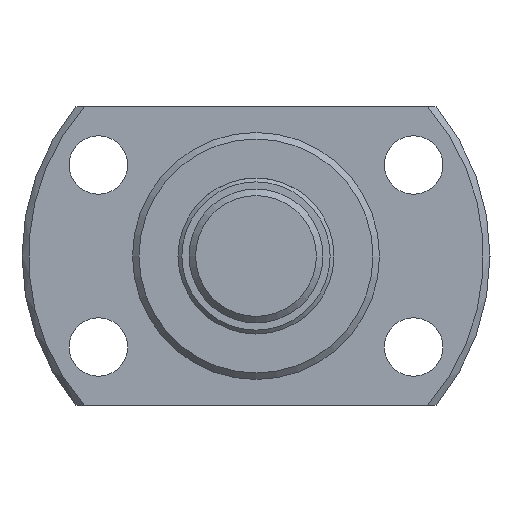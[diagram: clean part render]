
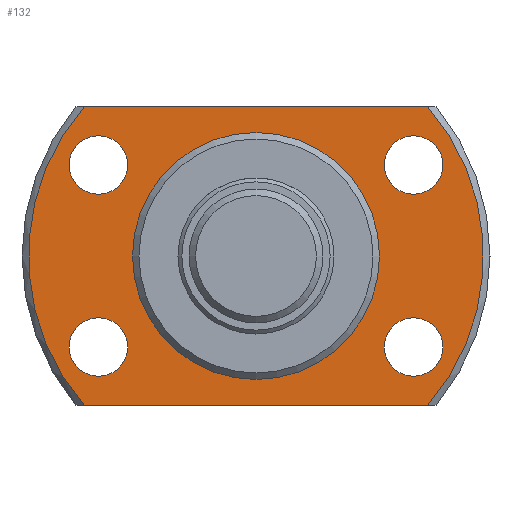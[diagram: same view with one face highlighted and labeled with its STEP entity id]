
A CAD part, left-side view. The second image highlights one B-rep face of the part: STEP entity #132.
In plain terms, the highlighted planar face has unit normal (-1, 0, 0).
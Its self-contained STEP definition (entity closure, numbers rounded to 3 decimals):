
#132 = ADVANCED_FACE( '', ( #266, #267, #268, #269, #270, #271 ), #272, .F. );
#266 = FACE_OUTER_BOUND( '', #422, .T. );
#267 = FACE_BOUND( '', #423, .T. );
#268 = FACE_BOUND( '', #424, .T. );
#269 = FACE_BOUND( '', #425, .T. );
#270 = FACE_BOUND( '', #426, .T. );
#271 = FACE_BOUND( '', #427, .T. );
#272 = PLANE( '', #428 );
#422 = EDGE_LOOP( '', ( #602, #603, #604, #605 ) );
#423 = EDGE_LOOP( '', ( #606 ) );
#424 = EDGE_LOOP( '', ( #607 ) );
#425 = EDGE_LOOP( '', ( #608 ) );
#426 = EDGE_LOOP( '', ( #609 ) );
#427 = EDGE_LOOP( '', ( #610 ) );
#428 = AXIS2_PLACEMENT_3D( '', #611, #612, #613 );
#602 = ORIENTED_EDGE( '', *, *, #836, .F. );
#603 = ORIENTED_EDGE( '', *, *, #819, .F. );
#604 = ORIENTED_EDGE( '', *, *, #837, .F. );
#605 = ORIENTED_EDGE( '', *, *, #838, .F. );
#606 = ORIENTED_EDGE( '', *, *, #839, .T. );
#607 = ORIENTED_EDGE( '', *, *, #823, .T. );
#608 = ORIENTED_EDGE( '', *, *, #840, .T. );
#609 = ORIENTED_EDGE( '', *, *, #841, .T. );
#610 = ORIENTED_EDGE( '', *, *, #842, .T. );
#611 = CARTESIAN_POINT( '', ( 14., 9.35, 0. ) );
#612 = DIRECTION( '', ( 1., 0., 0. ) );
#613 = DIRECTION( '', ( 0., 0., -1. ) );
#819 = EDGE_CURVE( '', #933, #923, #935, .T. );
#823 = EDGE_CURVE( '', #940, #940, #941, .T. );
#836 = EDGE_CURVE( '', #923, #961, #962, .T. );
#837 = EDGE_CURVE( '', #963, #933, #964, .T. );
#838 = EDGE_CURVE( '', #961, #963, #965, .T. );
#839 = EDGE_CURVE( '', #966, #966, #967, .T. );
#840 = EDGE_CURVE( '', #968, #968, #969, .T. );
#841 = EDGE_CURVE( '', #970, #970, #971, .T. );
#842 = EDGE_CURVE( '', #972, #972, #973, .T. );
#923 = VERTEX_POINT( '', #1076 );
#933 = VERTEX_POINT( '', #1095 );
#935 = LINE( '', #1100, #1101 );
#940 = VERTEX_POINT( '', #1106 );
#941 = CIRCLE( '', #1107, 2.25 );
#961 = VERTEX_POINT( '', #1131 );
#962 = CIRCLE( '', #1132, 17.5 );
#963 = VERTEX_POINT( '', #1133 );
#964 = CIRCLE( '', #1134, 17.5 );
#965 = LINE( '', #1135, #1136 );
#966 = VERTEX_POINT( '', #1137 );
#967 = CIRCLE( '', #1138, 2.25 );
#968 = VERTEX_POINT( '', #1139 );
#969 = CIRCLE( '', #1140, 2.25 );
#970 = VERTEX_POINT( '', #1141 );
#971 = CIRCLE( '', #1142, 2.25 );
#972 = VERTEX_POINT( '', #1143 );
#973 = CIRCLE( '', #1144, 9.35 );
#1076 = CARTESIAN_POINT( '', ( 14., 13.191, -11.5 ) );
#1095 = CARTESIAN_POINT( '', ( 14., -13.191, -11.5 ) );
#1100 = CARTESIAN_POINT( '', ( 14., -36., -11.5 ) );
#1101 = VECTOR( '', #1260, 1000. );
#1106 = CARTESIAN_POINT( '', ( 14., -12.124, -9.25 ) );
#1107 = AXIS2_PLACEMENT_3D( '', #1264, #1265, #1266 );
#1131 = CARTESIAN_POINT( '', ( 14., 13.191, 11.5 ) );
#1132 = AXIS2_PLACEMENT_3D( '', #1289, #1290, #1291 );
#1133 = CARTESIAN_POINT( '', ( 14., -13.191, 11.5 ) );
#1134 = AXIS2_PLACEMENT_3D( '', #1292, #1293, #1294 );
#1135 = CARTESIAN_POINT( '', ( 14., 36., 11.5 ) );
#1136 = VECTOR( '', #1295, 1000. );
#1137 = CARTESIAN_POINT( '', ( 14., -12.124, 4.75 ) );
#1138 = AXIS2_PLACEMENT_3D( '', #1296, #1297, #1298 );
#1139 = CARTESIAN_POINT( '', ( 14., 12.124, -9.25 ) );
#1140 = AXIS2_PLACEMENT_3D( '', #1299, #1300, #1301 );
#1141 = CARTESIAN_POINT( '', ( 14., 12.124, 4.75 ) );
#1142 = AXIS2_PLACEMENT_3D( '', #1302, #1303, #1304 );
#1143 = CARTESIAN_POINT( '', ( 14., 0., -9.35 ) );
#1144 = AXIS2_PLACEMENT_3D( '', #1305, #1306, #1307 );
#1260 = DIRECTION( '', ( 0., 1., 0. ) );
#1264 = CARTESIAN_POINT( '', ( 14., -12.124, -7. ) );
#1265 = DIRECTION( '', ( 1., 0., 0. ) );
#1266 = DIRECTION( '', ( 0., 0., -1. ) );
#1289 = CARTESIAN_POINT( '', ( 14., 0., 0. ) );
#1290 = DIRECTION( '', ( 1., 0., 0. ) );
#1291 = DIRECTION( '', ( 0., 0., -1. ) );
#1292 = CARTESIAN_POINT( '', ( 14., 0., 0. ) );
#1293 = DIRECTION( '', ( 1., 0., 0. ) );
#1294 = DIRECTION( '', ( 0., 0., -1. ) );
#1295 = DIRECTION( '', ( 0., -1., 0. ) );
#1296 = CARTESIAN_POINT( '', ( 14., -12.124, 7. ) );
#1297 = DIRECTION( '', ( 1., 0., 0. ) );
#1298 = DIRECTION( '', ( 0., 0., -1. ) );
#1299 = CARTESIAN_POINT( '', ( 14., 12.124, -7. ) );
#1300 = DIRECTION( '', ( 1., 0., 0. ) );
#1301 = DIRECTION( '', ( 0., 0., -1. ) );
#1302 = CARTESIAN_POINT( '', ( 14., 12.124, 7. ) );
#1303 = DIRECTION( '', ( 1., 0., 0. ) );
#1304 = DIRECTION( '', ( 0., 0., -1. ) );
#1305 = CARTESIAN_POINT( '', ( 14., 0., 0. ) );
#1306 = DIRECTION( '', ( 1., 0., 0. ) );
#1307 = DIRECTION( '', ( 0., 0., -1. ) );
